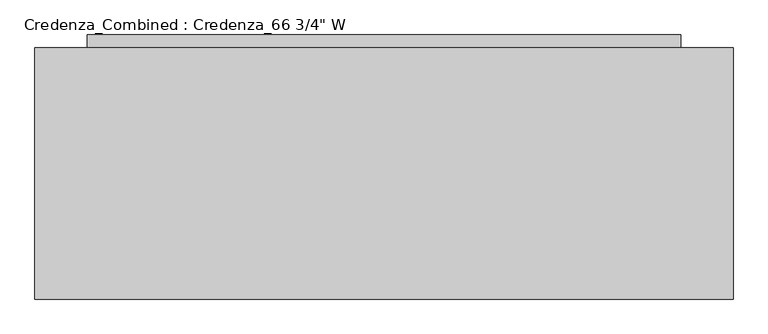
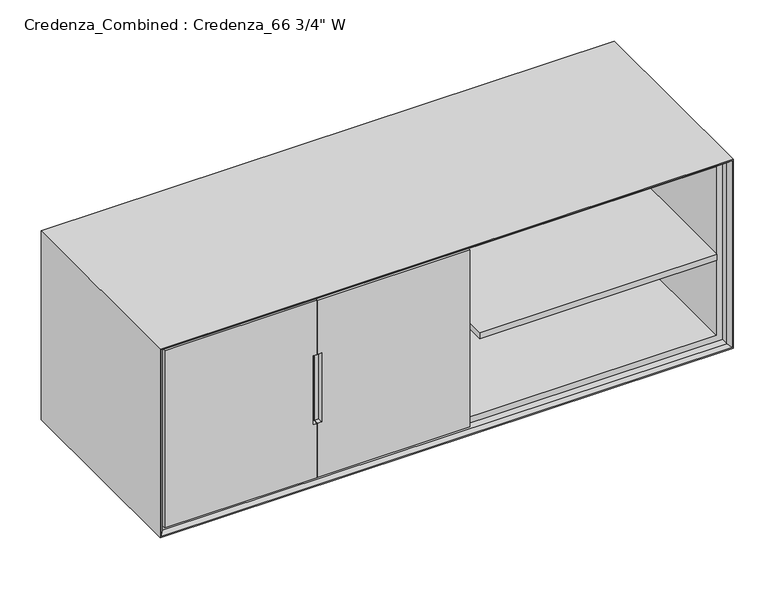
"""IFC4 building model written with IfcOpenShell, lengths in millimetres: furniture geometry."""

from ifc_helpers import new_model, si_unit, frame, origin, origin_with_axes, place, context, project, spatial, polyline, outline, extrude, faceted_brep, source, transform, mapped, element, save


def furniture_ef6a9de1(model_context):
    return source(origin(), model_context, "Body", "SolidModel", [
        extrude(outline(polyline([(1652.5875, 609.6), (1652.5875, 9.525), (950.9125, 9.525), (950.9125, 609.6), (1652.5875, 609.6)])), frame((0.0, 0.0, 371.475), z_axis=(0.0, 0.0, 1.0), x_axis=(1.0, 0.0, 0.0)), (0.0, 0.0, 1.0), 19.05),
        extrude(outline(polyline([(1568.45, 609.6), (1568.45, 241.3), (127.0, 241.3), (127.0, 609.6), (1568.45, 609.6)])), origin_with_axes(), (0.0, 0.0, 1.0), 87.3125),
        extrude(outline(polyline([(1568.45, 641.35), (1568.45, 609.6), (127.0, 609.6), (127.0, 641.35), (1568.45, 641.35)])), origin_with_axes(), (0.0, 0.0, 1.0), 647.7),
        extrude(outline(polyline([(665.1625, 1682.75), (665.1625, 12.7), (100.0125, 12.7), (100.0125, 1682.75), (665.1625, 1682.75)]), holes=[polyline([(646.1125, 31.75), (646.1125, 1663.7), (119.0625, 1663.7), (119.0625, 31.75), (646.1125, 31.75)])]), frame((0.0, 31.75, 0.0), z_axis=(0.0, 1.0, 0.0), x_axis=(0.0, 0.0, 1.0)), (0.0, 0.0, 1.0), 577.85),
        faceted_brep([(1682.75, 9.525, 665.1625), (1682.75, 609.6, 665.1625), (1682.75, 609.6, 100.0125), (1682.75, 9.525, 100.0125), (1692.275, 0.0, 674.6875), (1692.275, 0.0, 90.4875), (1695.45, 609.6, 677.8625), (1695.45, 0.0, 677.8625), (1695.45, 0.0, 87.3125), (1695.45, 609.6, 87.3125), (12.7, 609.6, 100.0125), (12.7, 9.525, 100.0125), (3.175, 0.0, 90.4875), (0.0, 0.0, 87.3125), (0.0, 609.6, 87.3125), (12.7, 609.6, 665.1625), (12.7, 9.525, 665.1625), (3.175, 0.0, 674.6875), (0.0, 0.0, 677.8625), (0.0, 609.6, 677.8625)], [[[0, 1, 2, 3]], [[4, 0, 3, 5]], [[6, 7, 8, 9]], [[3, 2, 10, 11]], [[5, 3, 11, 12]], [[9, 8, 13, 14]], [[11, 10, 15, 16]], [[12, 11, 16, 17]], [[14, 13, 18, 19]], [[9, 14, 19, 6], [1, 15, 10, 2]], [[16, 15, 1, 0]], [[17, 16, 0, 4]], [[7, 18, 13, 8], [5, 12, 17, 4]], [[19, 18, 7, 6]]]),
        faceted_brep([(469.10625, 28.575, 659.60625), (19.05, 28.575, 659.60625), (19.05, 9.525, 659.60625), (469.10625, 9.525, 659.60625), (469.10625, 28.575, 105.56875), (469.10625, 9.525, 105.56875), (19.05, 9.525, 105.56875), (19.05, 28.575, 105.56875), (457.99375, 25.4, 490.5375), (457.99375, 25.4, 274.6375), (469.10625, 25.4, 274.6375), (469.10625, 25.4, 490.5375), (469.10625, 9.525, 274.6375), (457.99375, 9.525, 274.6375), (457.99375, 9.525, 490.5375), (469.10625, 9.525, 490.5375)], [[[0, 1, 2, 3]], [[4, 5, 6, 7]], [[1, 0, 4, 7]], [[2, 1, 7, 6]], [[8, 9, 10, 11]], [[3, 2, 6, 5, 12, 13, 14, 15]], [[0, 3, 15, 11, 10, 12, 5, 4]], [[14, 8, 11, 15]], [[9, 8, 14, 13]], [[9, 13, 12, 10]]]),
        faceted_brep([(472.28125, 9.525, 659.60625), (922.3375, 9.525, 659.60625), (922.3375, 28.575, 659.60625), (472.28125, 28.575, 659.60625), (472.28125, 9.525, 105.56875), (472.28125, 28.575, 105.56875), (922.3375, 28.575, 105.56875), (922.3375, 9.525, 105.56875), (472.28125, 9.525, 490.5375), (483.39375, 9.525, 490.5375), (483.39375, 9.525, 274.6375), (472.28125, 9.525, 274.6375), (483.39375, 25.4, 274.6375), (483.39375, 25.4, 490.5375), (472.28125, 25.4, 490.5375), (472.28125, 25.4, 274.6375)], [[[0, 1, 2, 3]], [[4, 5, 6, 7]], [[1, 0, 8, 9, 10, 11, 4, 7]], [[2, 1, 7, 6]], [[12, 13, 14, 15]], [[3, 2, 6, 5]], [[0, 3, 5, 4, 11, 15, 14, 8]], [[13, 9, 8, 14]], [[10, 12, 15, 11]], [[13, 12, 10, 9]]]),
        extrude(outline(polyline([(922.3375, 609.6), (922.3375, 28.575), (19.05, 28.575), (19.05, 609.6), (922.3375, 609.6)])), frame((0.0, 0.0, 382.5875), z_axis=(0.0, 0.0, 1.0), x_axis=(1.0, 0.0, 0.0)), (0.0, 0.0, 1.0), 19.05),
    ])


if __name__ == "__main__":
    model = new_model("IFC4")
    model_context = context("Model", 3, world=origin())
    ifc_project = project(units=[si_unit("LENGTHUNIT", "METRE", prefix="MILLI")], contexts=[model_context])
    site = spatial("IfcSite", under=ifc_project)
    building = spatial("IfcBuilding", under=site)
    placement = place(None, origin())
    furniture_shape = furniture_ef6a9de1(model_context)
    element("IfcFurniture", 1, ObjectType="Credenza_Combined : Credenza_66 3/4\" W", at=placement, inside=building, context=model_context, shape_type="MappedRepresentation", body=[
        mapped(furniture_shape, transform((0.0, 0.0, 0.0), x_axis=(1.0, 0.0, 0.0), y_axis=(0.0, 1.0, 0.0), z_axis=(0.0, 0.0, 1.0))),
    ])
    save(model, "model.ifc")
